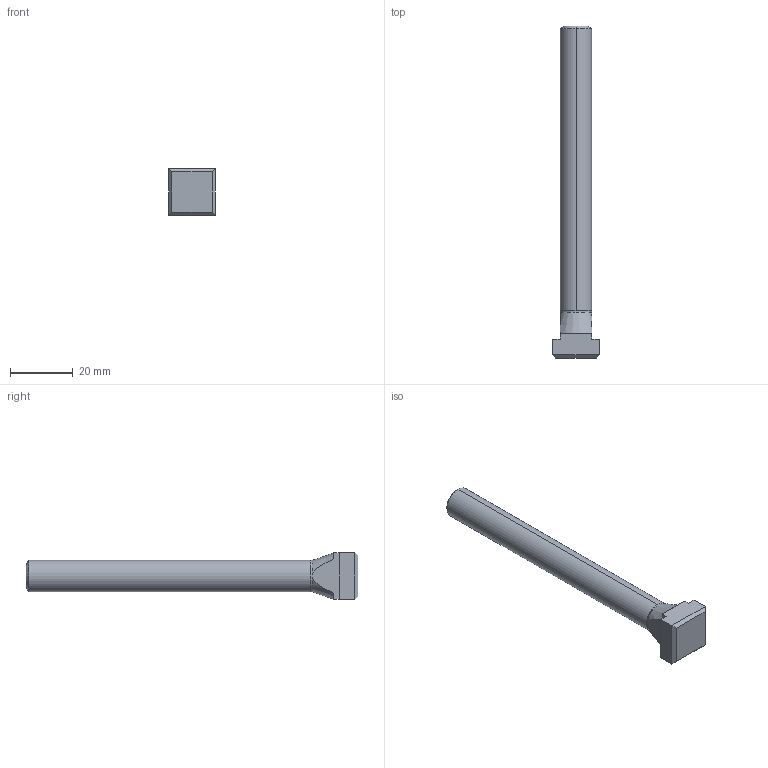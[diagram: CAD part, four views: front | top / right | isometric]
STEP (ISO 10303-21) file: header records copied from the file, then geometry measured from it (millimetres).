
FILE_DESCRIPTION (( 'STEP AP203' ), '1' );
FILE_NAME ('Wiberger-din787_10-m10x100.step', '2016-07-01T13:16:37', ( 'Magnus' ), ( 'Microsoft' ), 'SwSTEP 2.0', 'SolidWorks 2016', '' );
FILE_SCHEMA (( 'CONFIG_CONTROL_DESIGN' ));
Length unit declared in the file: millimetre
Products named in the file (1): Wiberger-din787_10-m10x100
Bounding box: 15 x 106 x 15 mm (x, y, z)
Volume: 9496.5 mm3; surface area: 3927.4 mm2
Topology: 1 solids, 1 shells, 28 faces, 70 edges, 44 vertices
Faces by surface type: plane 18, cone 5, cylinder 5
Entity records: 959 total; most frequent: CARTESIAN_POINT 213, ORIENTED_EDGE 140, DIRECTION 138, EDGE_CURVE 70, AXIS2_PLACEMENT_3D 47, LINE 44, VERTEX_POINT 44, VECTOR 44
